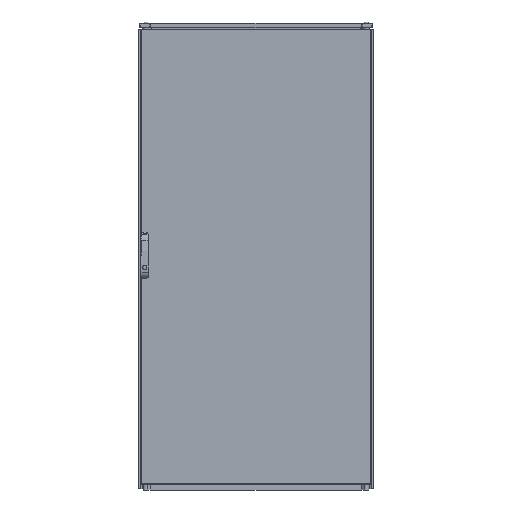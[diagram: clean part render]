
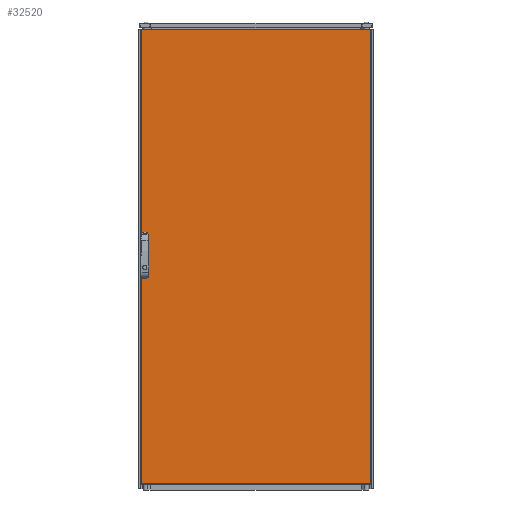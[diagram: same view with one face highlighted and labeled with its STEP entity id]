
A CAD part, front view. The second image highlights one B-rep face of the part: STEP entity #32520.
In plain terms, the highlighted planar face has unit normal (0, -1, 0).
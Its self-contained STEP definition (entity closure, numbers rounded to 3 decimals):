
#1982=CIRCLE('',#35315,9.5);
#1983=CIRCLE('',#35316,9.5);
#1984=CIRCLE('',#35317,9.5);
#1985=CIRCLE('',#35318,9.5);
#8120=ORIENTED_EDGE('',*,*,#14640,.T.);
#8121=ORIENTED_EDGE('',*,*,#14641,.T.);
#8122=ORIENTED_EDGE('',*,*,#14642,.T.);
#8123=ORIENTED_EDGE('',*,*,#14643,.T.);
#8124=ORIENTED_EDGE('',*,*,#14644,.T.);
#8125=ORIENTED_EDGE('',*,*,#14645,.T.);
#8126=ORIENTED_EDGE('',*,*,#14646,.T.);
#8127=ORIENTED_EDGE('',*,*,#14647,.T.);
#8128=ORIENTED_EDGE('',*,*,#14648,.T.);
#8129=ORIENTED_EDGE('',*,*,#14649,.T.);
#8130=ORIENTED_EDGE('',*,*,#14650,.T.);
#8131=ORIENTED_EDGE('',*,*,#14651,.T.);
#14640=EDGE_CURVE('',#18391,#18392,#21473,.T.);
#14641=EDGE_CURVE('',#18392,#18393,#21474,.T.);
#14642=EDGE_CURVE('',#18393,#18394,#21475,.F.);
#14643=EDGE_CURVE('',#18394,#18391,#21476,.F.);
#14644=EDGE_CURVE('',#18395,#18396,#1982,.T.);
#14645=EDGE_CURVE('',#18396,#18397,#21477,.T.);
#14646=EDGE_CURVE('',#18397,#18398,#1983,.T.);
#14647=EDGE_CURVE('',#18398,#18395,#21478,.T.);
#14648=EDGE_CURVE('',#18399,#18400,#1984,.T.);
#14649=EDGE_CURVE('',#18400,#18401,#21479,.T.);
#14650=EDGE_CURVE('',#18401,#18402,#1985,.T.);
#14651=EDGE_CURVE('',#18402,#18399,#21480,.T.);
#18391=VERTEX_POINT('',#52418);
#18392=VERTEX_POINT('',#52419);
#18393=VERTEX_POINT('',#52421);
#18394=VERTEX_POINT('',#52423);
#18395=VERTEX_POINT('',#52426);
#18396=VERTEX_POINT('',#52427);
#18397=VERTEX_POINT('',#52429);
#18398=VERTEX_POINT('',#52431);
#18399=VERTEX_POINT('',#52434);
#18400=VERTEX_POINT('',#52435);
#18401=VERTEX_POINT('',#52437);
#18402=VERTEX_POINT('',#52439);
#21473=LINE('',#52417,#24244);
#21474=LINE('',#52420,#24245);
#21475=LINE('',#52422,#24246);
#21476=LINE('',#52424,#24247);
#21477=LINE('',#52428,#24248);
#21478=LINE('',#52432,#24249);
#21479=LINE('',#52436,#24250);
#21480=LINE('',#52440,#24251);
#24244=VECTOR('',#42528,1000.);
#24245=VECTOR('',#42529,1000.);
#24246=VECTOR('',#42530,1000.);
#24247=VECTOR('',#42531,1000.);
#24248=VECTOR('',#42534,1000.);
#24249=VECTOR('',#42537,1000.);
#24250=VECTOR('',#42540,1000.);
#24251=VECTOR('',#42543,1000.);
#26622=EDGE_LOOP('',(#8120,#8121,#8122,#8123));
#26623=EDGE_LOOP('',(#8124,#8125,#8126,#8127));
#26624=EDGE_LOOP('',(#8128,#8129,#8130,#8131));
#29308=FACE_BOUND('',#26622,.T.);
#29309=FACE_BOUND('',#26623,.T.);
#29310=FACE_BOUND('',#26624,.T.);
#31205=PLANE('',#35314);
#32520=ADVANCED_FACE('',(#29308,#29309,#29310),#31205,.F.);
#35314=AXIS2_PLACEMENT_3D('',#52416,#42526,#42527);
#35315=AXIS2_PLACEMENT_3D('',#52425,#42532,#42533);
#35316=AXIS2_PLACEMENT_3D('',#52430,#42535,#42536);
#35317=AXIS2_PLACEMENT_3D('',#52433,#42538,#42539);
#35318=AXIS2_PLACEMENT_3D('',#52438,#42541,#42542);
#42526=DIRECTION('',(0.,1.,0.));
#42527=DIRECTION('',(0.,0.,1.));
#42528=DIRECTION('',(0.,0.,-1.));
#42529=DIRECTION('',(1.,0.,0.));
#42530=DIRECTION('',(0.,0.,-1.));
#42531=DIRECTION('',(1.,0.,0.));
#42532=DIRECTION('',(0.,1.,0.));
#42533=DIRECTION('',(1.,0.,0.));
#42534=DIRECTION('',(0.,0.,1.));
#42535=DIRECTION('',(0.,1.,0.));
#42536=DIRECTION('',(1.,0.,0.));
#42537=DIRECTION('',(0.,0.,-1.));
#42538=DIRECTION('',(0.,1.,0.));
#42539=DIRECTION('',(1.,0.,0.));
#42540=DIRECTION('',(0.,0.,1.));
#42541=DIRECTION('',(0.,1.,0.));
#42542=DIRECTION('',(1.,0.,0.));
#42543=DIRECTION('',(0.,0.,-1.));
#52416=CARTESIAN_POINT('',(-497.5,-19.,980.));
#52417=CARTESIAN_POINT('',(-494.5,-19.,980.));
#52418=CARTESIAN_POINT('',(-494.5,-19.,977.));
#52419=CARTESIAN_POINT('',(-494.5,-19.,-977.));
#52420=CARTESIAN_POINT('',(-497.5,-19.,-977.));
#52421=CARTESIAN_POINT('',(494.5,-19.,-977.));
#52422=CARTESIAN_POINT('',(494.5,-19.,980.));
#52423=CARTESIAN_POINT('',(494.5,-19.,977.));
#52424=CARTESIAN_POINT('',(-497.5,-19.,977.));
#52425=CARTESIAN_POINT('',(-478.3,-19.,32.25));
#52426=CARTESIAN_POINT('',(-468.8,-19.,32.25));
#52427=CARTESIAN_POINT('',(-487.8,-19.,32.25));
#52428=CARTESIAN_POINT('',(-487.8,-19.,32.25));
#52429=CARTESIAN_POINT('',(-487.8,-19.,80.25));
#52430=CARTESIAN_POINT('',(-478.3,-19.,80.25));
#52431=CARTESIAN_POINT('',(-468.8,-19.,80.25));
#52432=CARTESIAN_POINT('',(-468.8,-19.,80.25));
#52433=CARTESIAN_POINT('',(-478.3,-19.,-80.25));
#52434=CARTESIAN_POINT('',(-468.8,-19.,-80.25));
#52435=CARTESIAN_POINT('',(-487.8,-19.,-80.25));
#52436=CARTESIAN_POINT('',(-487.8,-19.,-80.25));
#52437=CARTESIAN_POINT('',(-487.8,-19.,-32.25));
#52438=CARTESIAN_POINT('',(-478.3,-19.,-32.25));
#52439=CARTESIAN_POINT('',(-468.8,-19.,-32.25));
#52440=CARTESIAN_POINT('',(-468.8,-19.,-32.25));
